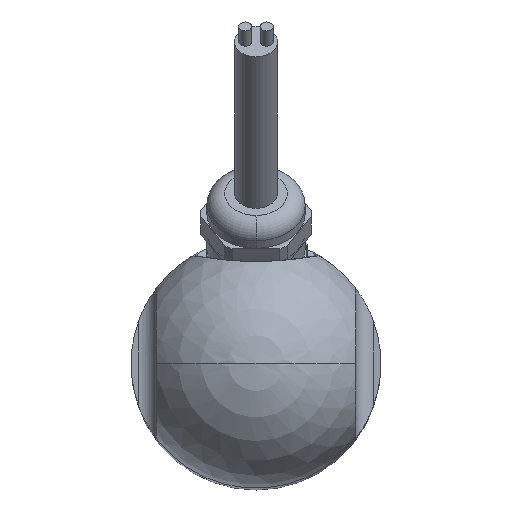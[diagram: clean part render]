
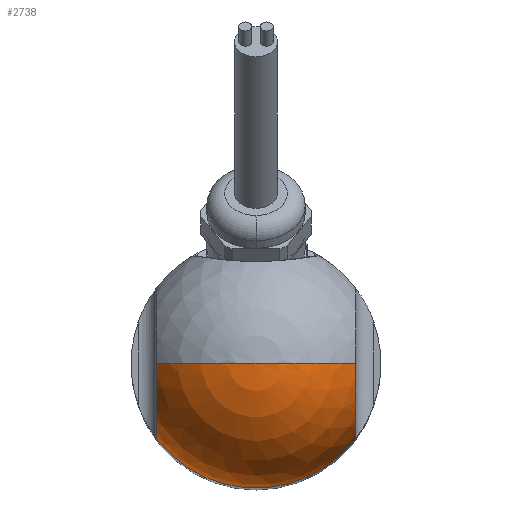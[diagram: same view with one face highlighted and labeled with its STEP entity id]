
A CAD part, top view. The second image highlights one B-rep face of the part: STEP entity #2738.
In plain terms, the highlighted spherical face has radius 17.5 mm.
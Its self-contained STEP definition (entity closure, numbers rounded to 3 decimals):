
#10=CARTESIAN_POINT('',(0.,0.,142.));
#11=DIRECTION('',(0.,0.,-1.));
#12=DIRECTION('',(0.8,-0.6,0.));
#13=AXIS2_PLACEMENT_3D('',#10,#11,#12);
#671=CARTESIAN_POINT('',(0.,0.,142.));
#672=DIRECTION('',(0.,1.,0.));
#673=DIRECTION('',(0.,0.,1.));
#674=AXIS2_PLACEMENT_3D('',#671,#672,#673);
#676=CARTESIAN_POINT('',(0.,0.,142.));
#677=DIRECTION('',(0.,-1.,0.));
#678=DIRECTION('',(0.,0.,1.));
#679=AXIS2_PLACEMENT_3D('',#676,#677,#678);
#728=CARTESIAN_POINT('',(14.,0.,142.));
#729=DIRECTION('',(-1.,0.,0.));
#730=DIRECTION('',(0.,-1.,0.));
#731=AXIS2_PLACEMENT_3D('',#728,#729,#730);
#733=CARTESIAN_POINT('',(-14.,0.,142.));
#734=DIRECTION('',(1.,0.,0.));
#735=DIRECTION('',(0.,0.,1.));
#736=AXIS2_PLACEMENT_3D('',#733,#734,#735);
#1402=CARTESIAN_POINT('',(14.,-10.5,142.));
#1403=CARTESIAN_POINT('',(14.,0.,152.5));
#1404=VERTEX_POINT('',#1402);
#1405=VERTEX_POINT('',#1403);
#1406=CARTESIAN_POINT('',(-14.,0.,152.5));
#1407=CARTESIAN_POINT('',(-14.,-10.5,142.));
#1408=VERTEX_POINT('',#1406);
#1409=VERTEX_POINT('',#1407);
#1416=CARTESIAN_POINT('',(0.,0.,159.5));
#1417=VERTEX_POINT('',#1416);
#2725=CARTESIAN_POINT('',(0.,0.,142.));
#2726=DIRECTION('',(0.,0.,-1.));
#2727=DIRECTION('',(1.,0.,0.));
#2728=AXIS2_PLACEMENT_3D('',#2725,#2726,#2727);
#2729=SPHERICAL_SURFACE('',#2728,17.5);
#2730=ORIENTED_EDGE('',*,*,#2688,.F.);
#2731=ORIENTED_EDGE('',*,*,#1711,.T.);
#2733=ORIENTED_EDGE('',*,*,#2732,.F.);
#2734=ORIENTED_EDGE('',*,*,#2672,.F.);
#2735=ORIENTED_EDGE('',*,*,#2670,.T.);
#2736=EDGE_LOOP('',(#2730,#2731,#2733,#2734,#2735));
#2737=FACE_OUTER_BOUND('',#2736,.F.);
#14=CIRCLE('',#13,17.5);
#675=CIRCLE('',#674,17.5);
#680=CIRCLE('',#679,17.5);
#732=CIRCLE('',#731,10.5);
#737=CIRCLE('',#736,10.5);
#1711=EDGE_CURVE('',#1404,#1409,#14,.T.);
#2670=EDGE_CURVE('',#1417,#1405,#675,.T.);
#2672=EDGE_CURVE('',#1417,#1408,#680,.T.);
#2688=EDGE_CURVE('',#1404,#1405,#732,.T.);
#2732=EDGE_CURVE('',#1408,#1409,#737,.T.);
#2738=ADVANCED_FACE('',(#2737),#2729,.T.);
